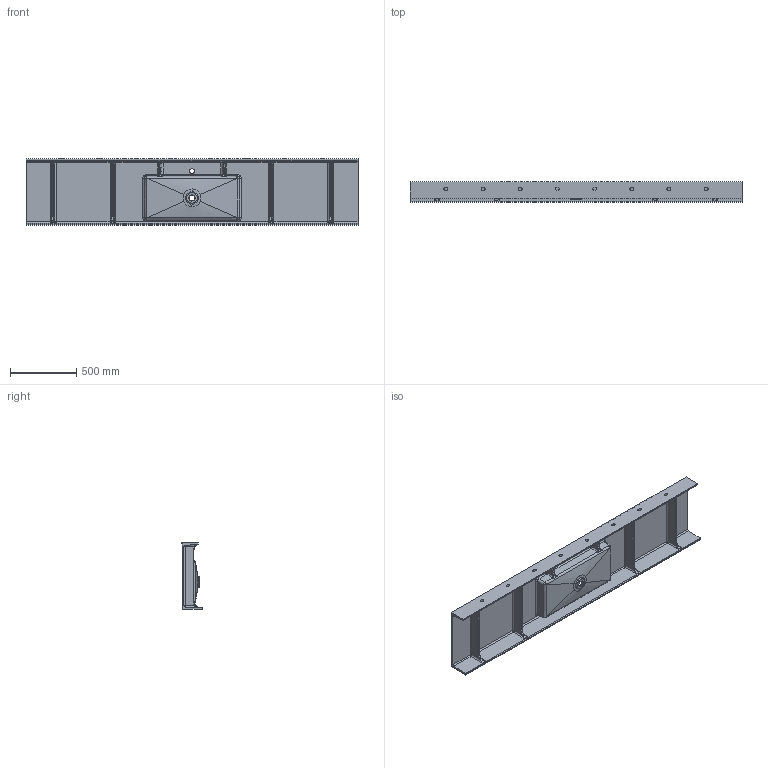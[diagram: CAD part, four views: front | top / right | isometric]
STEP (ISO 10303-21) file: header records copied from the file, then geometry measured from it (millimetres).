
FILE_DESCRIPTION (( 'STEP AP203' ), '1' );
FILE_NAME ('PLANO70-P.STEP', '2021-09-20T07:09:52', ( '' ), ( '' ), 'SwSTEP 2.0', 'SolidWorks 2020', '' );
FILE_SCHEMA (( 'CONFIG_CONTROL_DESIGN' ));
Length unit declared in the file: millimetre
Products named in the file (1): PLANO70-P
Bounding box: 2500 x 155 x 500 mm (x, y, z)
Volume: 29867323.5 mm3; surface area: 4327217.5 mm2
Topology: 1 solids, 1 shells, 342 faces, 846 edges, 494 vertices
Faces by surface type: cylinder 127, bspline 93, plane 67, sphere 34, torus 15, cone 6
Entity records: 19774 total; most frequent: CARTESIAN_POINT 12414, ORIENTED_EDGE 1668, DIRECTION 1375, EDGE_CURVE 834, AXIS2_PLACEMENT_3D 535, VERTEX_POINT 494, EDGE_LOOP 362, ADVANCED_FACE 342
